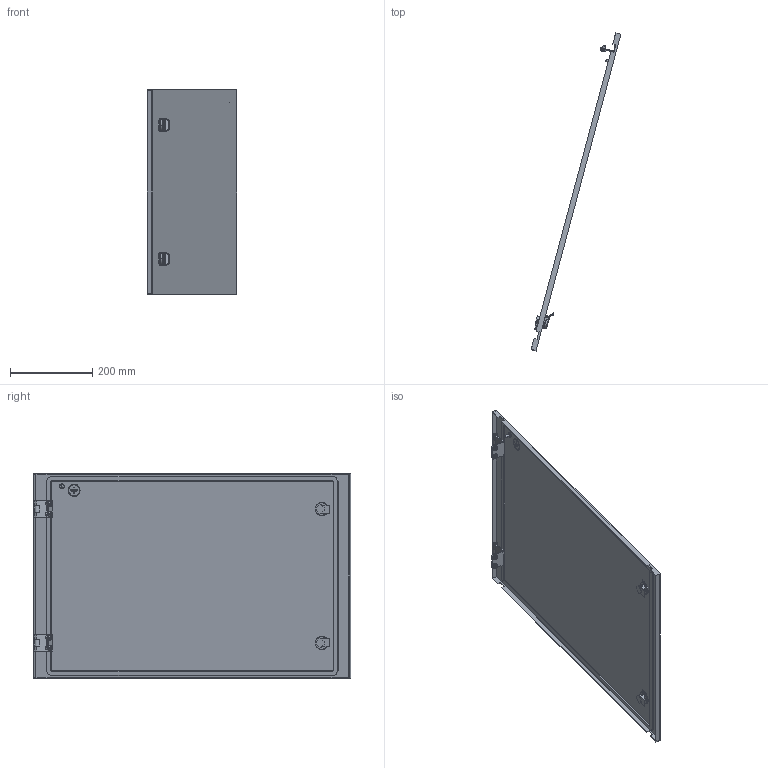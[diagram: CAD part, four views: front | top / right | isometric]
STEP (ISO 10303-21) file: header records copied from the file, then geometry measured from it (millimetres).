
FILE_DESCRIPTION (( 'STEP AP214' ), '1' );
FILE_NAME ('FO-00-ESD-050-080 Äâåðü ñåêöèîííàÿ âíåøíÿÿ 500õ800 ìì.STEP', '2025-08-20T06:30:07', ( '' ), ( '' ), 'SwSTEP 2.0', 'SolidWorks 2023', '' );
FILE_SCHEMA (( 'AUTOMOTIVE_DESIGN' ));
Length unit declared in the file: millimetre
Products named in the file (4): Дверь секционная внешняя 500х800.STEP; FO-00-ESD-050-080 Дверь секционная внешняя 500х800 мм.STEP; Петля_9.STEP; FO-00-ESD-050-080 Дверь секционная внешняя 500х800 мм
Assembly tree (4 placements, depth 3):
  FO-00-ESD-050-080 Дверь секционная внешняя 500х800 мм
    FO-00-ESD-050-080 Дверь секционная внешняя 500х800 мм.STEP
      Дверь секционная внешняя 500х800.STEP
      Петля_9.STEP  x2
Bounding box: 217.64 x 771.19 x 496 mm (x, y, z)
Volume: 979227.5 mm3; surface area: 887672.5 mm2
Topology: 3 solids, 12 shells, 707 faces, 1809 edges, 1168 vertices
Faces by surface type: plane 343, cylinder 268, torus 34, cone 32, bspline 30
Entity records: 20694 total; most frequent: CARTESIAN_POINT 5778, ORIENTED_EDGE 3108, DIRECTION 3078, EDGE_CURVE 1554, AXIS2_PLACEMENT_3D 1056, VERTEX_POINT 1006, VECTOR 966, LINE 966
